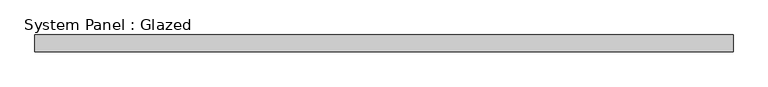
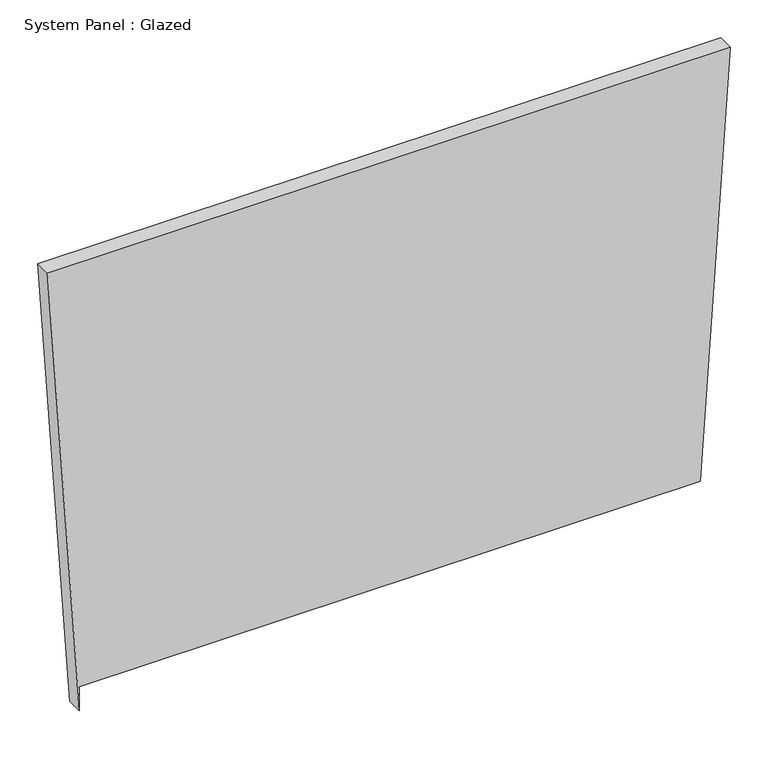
"""IFC4 building model written with IfcOpenShell, lengths in millimetres: plate geometry, System Panel : Glazed."""

from ifc_helpers import new_model, si_unit, frame, origin, place, context, project, spatial, polyline, outline, extrude, source, transform, mapped, element, save


def system_panel_glazed_40fbaaaa(model_context):
    return source(origin(), model_context, "Body", "SweptSolid", [
        extrude(outline(polyline([(0.0, -473.08542), (38.1, -473.08542), (38.1, 475.6501779), (723.2675064, 521.7736864), (723.26714, -521.7736864), (0.0, -473.08542)])), frame((0.0, 19.05, 0.0), z_axis=(0.0, 1.0, 0.0), x_axis=(0.0, 0.0, 1.0)), (0.0, 0.0, 1.0), 25.4),
    ])


if __name__ == "__main__":
    model = new_model("IFC4")
    model_context = context("Model", 3, world=origin())
    ifc_project = project(units=[si_unit("LENGTHUNIT", "METRE", prefix="MILLI")], contexts=[model_context])
    site = spatial("IfcSite", under=ifc_project)
    building = spatial("IfcBuilding", under=site)
    placement = place(None, origin())
    system_panel_glazed_shape = system_panel_glazed_40fbaaaa(model_context)
    element("IfcPlate", 1, ObjectType="System Panel : Glazed", at=placement, inside=building, context=model_context, shape_type="MappedRepresentation", body=[
        mapped(system_panel_glazed_shape, transform((0.0, 0.0, 0.0), x_axis=(1.0, 0.0, 0.0), y_axis=(0.0, 1.0, 0.0), z_axis=(0.0, 0.0, 1.0))),
    ])
    save(model, "model.ifc")
